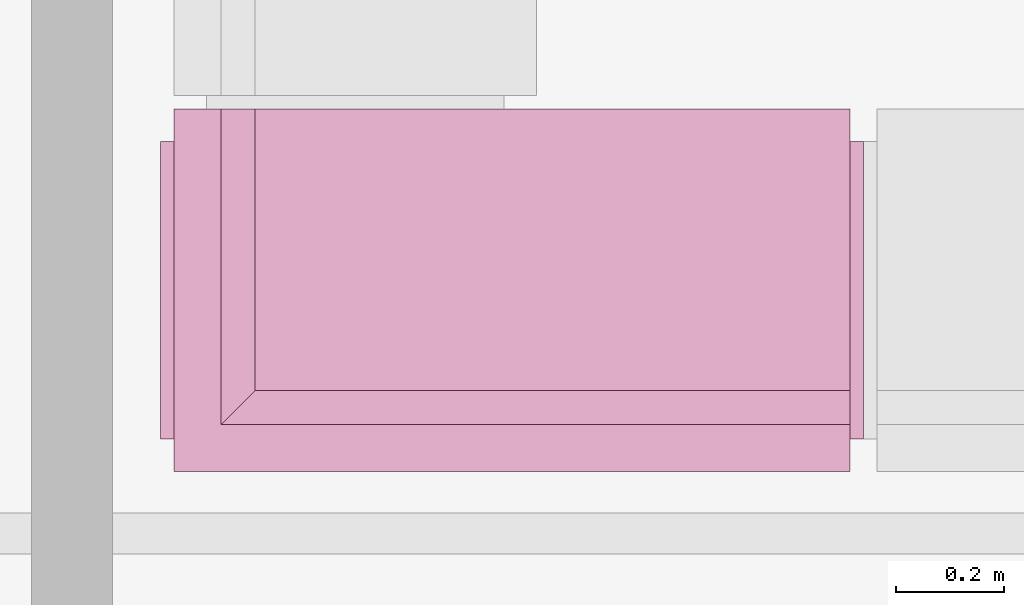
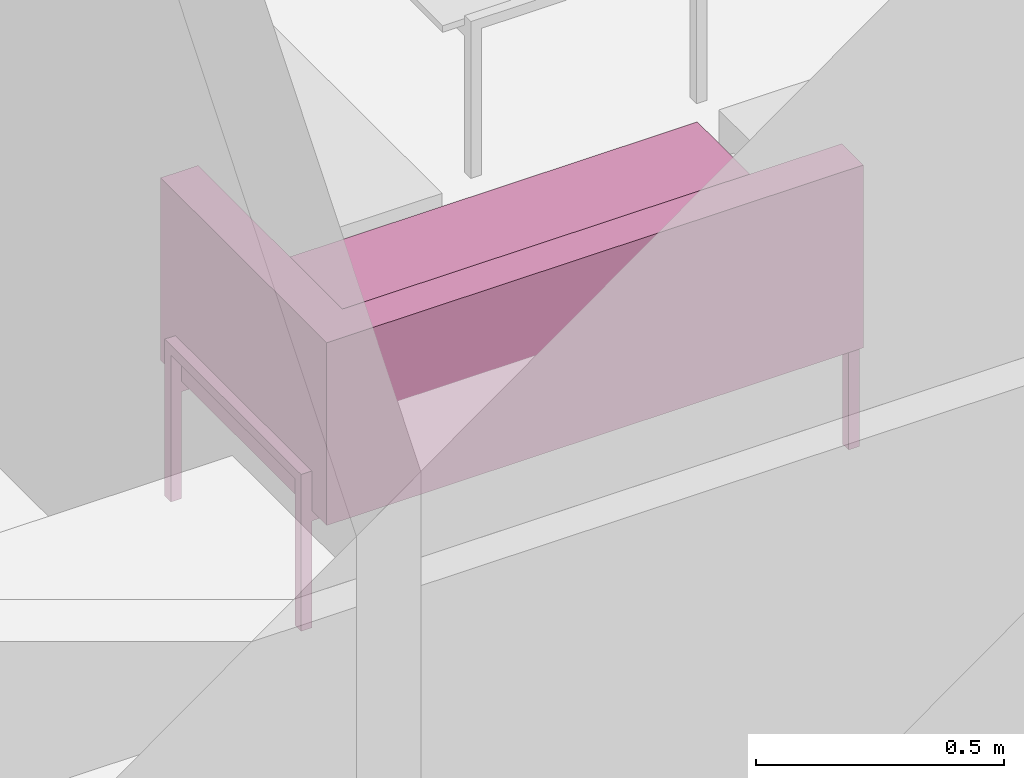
# One storey, part 20 of 23: 1 furnishing.
"""IFC2X3 building model written with IfcOpenShell, lengths in millimetres."""

from ifc_helpers import new_model, entity, si_unit, converted_unit, derived_unit, direction, frame, origin, place, context, subcontext, project, spatial, faceted_brep, source, transform, mapped, material, material_list, type_object, type_shapes, element, save


model = new_model("IFC2X3")

# Units and contexts
model_context = context("Model", 3, precision=0.01, world=origin(), true_north=direction((6.12303176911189e-17, 1.0)))
body_context = subcontext(model_context, "Body", "Model", "MODEL_VIEW")
ifc_project = project(units=[si_unit("LENGTHUNIT", "METRE", prefix="MILLI"), si_unit("AREAUNIT", "SQUARE_METRE"), si_unit("VOLUMEUNIT", "CUBIC_METRE"), converted_unit("PLANEANGLEUNIT", "DEGREE", entity("IfcRatioMeasure", 0.0174532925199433), si_unit("PLANEANGLEUNIT", "RADIAN"), dimensions=[0, 0, 0, 0, 0, 0, 0]), si_unit("MASSUNIT", "GRAM", prefix="KILO"), derived_unit("MASSDENSITYUNIT", [(si_unit("MASSUNIT", "GRAM", prefix="KILO"), 1), (si_unit("LENGTHUNIT", "METRE"), -3)]), si_unit("TIMEUNIT", "SECOND"), si_unit("FREQUENCYUNIT", "HERTZ"), si_unit("THERMODYNAMICTEMPERATUREUNIT", "DEGREE_CELSIUS"), derived_unit("THERMALTRANSMITTANCEUNIT", [(si_unit("MASSUNIT", "GRAM", prefix="KILO"), 1), (si_unit("THERMODYNAMICTEMPERATUREUNIT", "KELVIN"), -1), (si_unit("TIMEUNIT", "SECOND"), -3)]), derived_unit("VOLUMETRICFLOWRATEUNIT", [(si_unit("LENGTHUNIT", "METRE"), 3), (si_unit("TIMEUNIT", "SECOND"), -1)]), si_unit("ELECTRICCURRENTUNIT", "AMPERE"), si_unit("ELECTRICVOLTAGEUNIT", "VOLT"), si_unit("POWERUNIT", "WATT"), si_unit("FORCEUNIT", "NEWTON", prefix="KILO"), si_unit("ILLUMINANCEUNIT", "LUX"), si_unit("LUMINOUSFLUXUNIT", "LUMEN"), si_unit("LUMINOUSINTENSITYUNIT", "CANDELA"), derived_unit("USERDEFINED", [(si_unit("MASSUNIT", "GRAM", prefix="KILO"), -1), (si_unit("LENGTHUNIT", "METRE"), -2), (si_unit("TIMEUNIT", "SECOND"), 3), (si_unit("LUMINOUSFLUXUNIT", "LUMEN"), 1)]), derived_unit("LINEARVELOCITYUNIT", [(si_unit("LENGTHUNIT", "METRE"), 1), (si_unit("TIMEUNIT", "SECOND"), -1)]), si_unit("PRESSUREUNIT", "PASCAL"), derived_unit("USERDEFINED", [(si_unit("LENGTHUNIT", "METRE"), -2), (si_unit("MASSUNIT", "GRAM", prefix="KILO"), 1), (si_unit("TIMEUNIT", "SECOND"), -2)]), derived_unit("LINEARFORCEUNIT", [(si_unit("MASSUNIT", "GRAM", prefix="KILO"), 1), (si_unit("LENGTHUNIT", "METRE"), 1), (si_unit("TIMEUNIT", "SECOND"), -2), (si_unit("LENGTHUNIT", "METRE"), -1)]), derived_unit("PLANARFORCEUNIT", [(si_unit("MASSUNIT", "GRAM", prefix="KILO"), 1), (si_unit("LENGTHUNIT", "METRE"), 1), (si_unit("TIMEUNIT", "SECOND"), -2), (si_unit("LENGTHUNIT", "METRE"), -2)])], contexts=[model_context])

# Site, building, storey, space
site_placement = place(None, origin())
site = spatial("IfcSite", under=ifc_project, at=site_placement, Name="Default", CompositionType="ELEMENT")
building_placement = place(site_placement, origin())
building = spatial("IfcBuilding", under=site, at=building_placement, Name="SMA ARH", CompositionType="ELEMENT")
storey_placement = place(building_placement, frame((0.0, 0.0, -2800.0)))
storey = spatial("IfcBuildingStorey", under=building, at=storey_placement, Name="0 Sokkel", CompositionType="ELEMENT", Elevation=-2800.0)
space_placement = place(storey_placement, origin())
space = spatial("IfcSpace", under=storey, at=space_placement, Name="0-2", CompositionType="ELEMENT", InteriorOrExteriorSpace="INTERNAL")

# Furnishing
ifc_material_1 = material(Name="__Metall 1")
ifc_material_2 = material(Name="+ Melamiin hall")
ifc_material_3 = material(Name="__Aknaraam")
ifc_material_list = material_list([ifc_material_1, ifc_material_2, ifc_material_3])
furniture_type = type_object("IfcFurnitureType", Name="zeeta.2A:zeeta.2A", material=ifc_material_list)
shared_shape = source(origin(), body_context, "Body", "Brep", [
    faceted_brep([(1300.0, 610.0, 386.0), (1300.0, 610.0, 6.0), (1275.0, 610.0, 6.0), (1275.0, 610.0, 386.0), (1300.0, 60.0, 386.0), (1275.0, 60.0, 386.0), (1300.0, 60.0, 6.0), (1275.0, 60.0, 6.0), (1300.0, 85.0, 6.0), (1275.0, 85.0, 6.0), (1300.0, 85.0, 361.0), (1275.0, 85.0, 361.0), (1300.0, 585.0, 361.0), (1275.0, 585.0, 361.0), (1300.0, 585.0, 6.0), (1275.0, 585.0, 6.0)], [[[0, 1, 2, 3]], [[4, 0, 3, 5]], [[6, 4, 5, 7]], [[8, 6, 7, 9]], [[10, 8, 9, 11]], [[12, 10, 11, 13]], [[14, 12, 13, 15]], [[1, 14, 15, 2]], [[14, 1, 0, 4, 6, 8, 10, 12]], [[2, 15, 13, 11, 9, 7, 5, 3]]]),
    faceted_brep([(0.0, 610.0, 6.0), (0.0, 610.0, 386.0), (25.0, 610.0, 386.0), (25.0, 610.0, 6.0), (0.0, 60.0, 386.0), (25.0, 60.0, 386.0), (0.0, 60.0, 6.0), (25.0, 60.0, 6.0), (0.0, 85.0, 6.0), (25.0, 85.0, 6.0), (0.0, 85.0, 361.0), (25.0, 85.0, 361.0), (0.0, 585.0, 361.0), (25.0, 585.0, 361.0), (0.0, 585.0, 6.0), (25.0, 585.0, 6.0)], [[[0, 1, 2, 3]], [[1, 4, 5, 2]], [[4, 6, 7, 5]], [[6, 8, 9, 7]], [[8, 10, 11, 9]], [[10, 12, 13, 11]], [[12, 14, 15, 13]], [[14, 0, 3, 15]], [[0, 14, 12, 10, 8, 6, 4, 1]], [[15, 3, 2, 5, 7, 9, 11, 13]]]),
    faceted_brep([(25.0, 85.0, 263.0), (25.0, 60.0, 263.0), (25.0, 60.0, 288.0), (25.0, 85.0, 288.0), (1275.0, 85.0, 263.0), (1275.0, 85.0, 288.0), (1275.0, 60.0, 263.0), (1275.0, 60.0, 288.0)], [[[0, 1, 2, 3]], [[4, 0, 3, 5]], [[6, 4, 5, 7]], [[1, 6, 7, 2]], [[6, 1, 0, 4]], [[2, 7, 5, 3]]]),
    faceted_brep([(25.0, 610.0, 263.0), (25.0, 585.0, 263.0), (25.0, 585.0, 288.0), (25.0, 610.0, 288.0), (1275.0, 585.0, 263.0), (1275.0, 585.0, 288.0), (1275.0, 610.0, 263.0), (1275.0, 610.0, 288.0)], [[[0, 1, 2, 3]], [[1, 4, 5, 2]], [[4, 6, 7, 5]], [[6, 0, 3, 7]], [[0, 6, 4, 1]], [[7, 3, 2, 5]]]),
    faceted_brep([(637.5, 585.0, 263.0), (637.5, 85.0, 263.0), (637.5, 85.0, 288.0), (637.5, 585.0, 288.0), (662.5, 585.0, 263.0), (662.5, 585.0, 288.0), (662.5, 85.0, 263.0), (662.5, 85.0, 288.0)], [[[0, 1, 2, 3]], [[4, 0, 3, 5]], [[6, 4, 5, 7]], [[1, 6, 7, 2]], [[6, 1, 0, 4]], [[2, 7, 5, 3]]]),
    faceted_brep([(1188.0, 0.0, 738.0), (1275.0, 0.0, 738.0), (1275.0, 670.0, 738.0), (1188.0, 583.0, 738.0), (1125.0, 520.0, 438.0), (1125.0, 0.0, 438.0), (1275.0, 670.0, 288.0), (1275.0, 0.0, 288.0), (1125.0, 520.0, 288.0), (1125.0, 0.0, 288.0)], [[[0, 1, 2, 3]], [[4, 5, 0, 3]], [[6, 2, 1, 7]], [[8, 4, 3, 2, 6]], [[5, 4, 8, 9]], [[7, 1, 0, 5, 9]], [[7, 9, 8, 6]]]),
    faceted_brep([(25.0, 670.0, 738.0), (25.0, 583.0, 738.0), (1188.0, 583.0, 738.0), (1275.0, 670.0, 738.0), (25.0, 520.0, 438.0), (1125.0, 520.0, 438.0), (1275.0, 670.0, 288.0), (25.0, 670.0, 288.0), (1125.0, 520.0, 288.0), (25.0, 520.0, 288.0)], [[[0, 1, 2, 3]], [[4, 5, 2, 1]], [[3, 6, 7, 0]], [[5, 8, 6, 3, 2]], [[5, 4, 9, 8]], [[0, 7, 9, 4, 1]], [[9, 7, 6, 8]]]),
    faceted_brep([(25.0, 520.0, 288.0), (25.0, 0.0, 288.0), (25.0, 0.0, 438.0), (25.0, 520.0, 438.0), (1125.0, 520.0, 288.0), (1125.0, 520.0, 438.0), (1125.0, 0.0, 288.0), (1125.0, 0.0, 438.0)], [[[0, 1, 2, 3]], [[4, 0, 3, 5]], [[6, 4, 5, 7]], [[1, 6, 7, 2]], [[6, 1, 0, 4]], [[2, 7, 5, 3]]]),
    faceted_brep([(1275.0, 85.0, 0.0), (1275.0, 60.0, 0.0), (1275.0, 60.0, 6.0), (1275.0, 85.0, 6.0), (1300.0, 85.0, 0.0), (1300.0, 85.0, 6.0), (1300.0, 60.0, 0.0), (1300.0, 60.0, 6.0)], [[[0, 1, 2, 3]], [[4, 0, 3, 5]], [[6, 4, 5, 7]], [[1, 6, 7, 2]], [[6, 1, 0, 4]], [[2, 7, 5, 3]]]),
    faceted_brep([(1275.0, 610.0, 0.0), (1275.0, 585.0, 0.0), (1275.0, 585.0, 6.0), (1275.0, 610.0, 6.0), (1300.0, 610.0, 0.0), (1300.0, 610.0, 6.0), (1300.0, 585.0, 0.0), (1300.0, 585.0, 6.0)], [[[0, 1, 2, 3]], [[4, 0, 3, 5]], [[6, 4, 5, 7]], [[1, 6, 7, 2]], [[6, 1, 0, 4]], [[2, 7, 5, 3]]]),
    faceted_brep([(0.0, 60.0, 6.0), (0.0, 85.0, 6.0), (0.0, 85.0, 0.0), (0.0, 60.0, 0.0), (25.0, 85.0, 6.0), (25.0, 85.0, 0.0), (25.0, 60.0, 6.0), (25.0, 60.0, 0.0)], [[[0, 1, 2, 3]], [[1, 4, 5, 2]], [[4, 6, 7, 5]], [[6, 0, 3, 7]], [[1, 0, 6, 4]], [[7, 3, 2, 5]]]),
    faceted_brep([(0.0, 610.0, 0.0), (0.0, 585.0, 0.0), (0.0, 585.0, 6.0), (0.0, 610.0, 6.0), (25.0, 610.0, 0.0), (25.0, 610.0, 6.0), (25.0, 585.0, 0.0), (25.0, 585.0, 6.0)], [[[0, 1, 2, 3]], [[4, 0, 3, 5]], [[6, 4, 5, 7]], [[1, 6, 7, 2]], [[6, 1, 0, 4]], [[2, 7, 5, 3]]]),
])
type_shapes(furniture_type, [shared_shape])
furnishing_placement = place(space_placement, frame((23899.1644756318, 1382.30878841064, -1.27383282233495e-06), z_axis=(0.0, 0.0, 1.0), x_axis=(-1.0, 0.0, 0.0)))
element("IfcFurnishingElement", 1, at=furnishing_placement, inside=space, type_object=furniture_type, Name="zeeta.2A:zeeta.2A", ObjectType="zeeta.2A:zeeta.2A", context=body_context, shape_type="MappedRepresentation", body=[
    mapped(shared_shape, transform((0.0, 0.0, 0.0), scale=1.0)),
])

save(model, "model.ifc")
